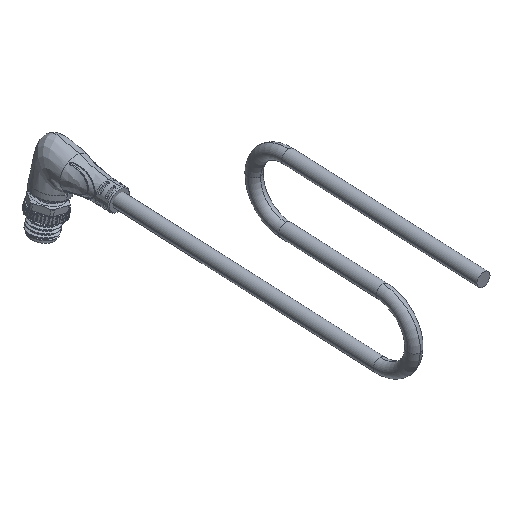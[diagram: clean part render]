
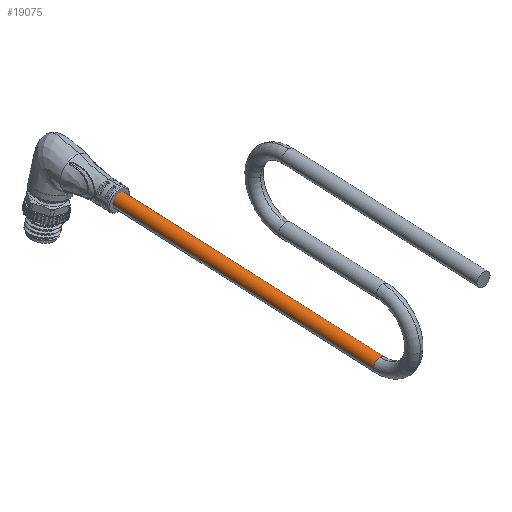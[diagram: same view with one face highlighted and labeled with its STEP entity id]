
A CAD part, isometric view. The second image highlights one B-rep face of the part: STEP entity #19075.
In plain terms, the highlighted cylindrical face has radius 2 mm (diameter 4 mm), a partial arc.
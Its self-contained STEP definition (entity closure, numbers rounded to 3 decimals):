
#16 = EDGE_CURVE ( 'NONE', #9887, #21935, #32134, .T. ) ;
#1195 = DIRECTION ( 'NONE',  ( -1., 0., 0. ) ) ;
#3101 = ORIENTED_EDGE ( 'NONE', *, *, #4665, .T. ) ;
#3181 = CARTESIAN_POINT ( 'NONE',  ( 2., 40., -90. ) ) ;
#3295 = VECTOR ( 'NONE', #9621, 1000. ) ;
#3334 = DIRECTION ( 'NONE',  ( 0., 0., -1. ) ) ;
#4041 = CARTESIAN_POINT ( 'NONE',  ( -2., 40., 0. ) ) ;
#4665 = EDGE_CURVE ( 'NONE', #30322, #27955, #25814, .T. ) ;
#5863 = ORIENTED_EDGE ( 'NONE', *, *, #24318, .T. ) ;
#7496 = DIRECTION ( 'NONE',  ( -1., 0., 0. ) ) ;
#8595 = VERTEX_POINT ( 'NONE', #4041 ) ;
#9025 = CARTESIAN_POINT ( 'NONE',  ( 0., 38., 0. ) ) ;
#9621 = DIRECTION ( 'NONE',  ( 0., 0., -1. ) ) ;
#9887 = VERTEX_POINT ( 'NONE', #3181 ) ;
#10677 = CARTESIAN_POINT ( 'NONE',  ( 0., 40., 0. ) ) ;
#10800 = AXIS2_PLACEMENT_3D ( 'NONE', #31404, #26585, #23716 ) ;
#10889 = DIRECTION ( 'NONE',  ( 0., 0., -1. ) ) ;
#11147 = DIRECTION ( 'NONE',  ( -1., 0., 0. ) ) ;
#12473 = CARTESIAN_POINT ( 'NONE',  ( -2., 40., -90. ) ) ;
#12620 = LINE ( 'NONE', #20283, #3295 ) ;
#13034 = CARTESIAN_POINT ( 'NONE',  ( -2., 40., 0. ) ) ;
#16235 = CARTESIAN_POINT ( 'NONE',  ( 0., 40., 0. ) ) ;
#16764 = ORIENTED_EDGE ( 'NONE', *, *, #16, .F. ) ;
#17545 = EDGE_CURVE ( 'NONE', #27955, #8595, #29262, .T. ) ;
#17622 = VECTOR ( 'NONE', #3334, 1000. ) ;
#18670 = FACE_OUTER_BOUND ( 'NONE', #18797, .T. ) ;
#18797 = EDGE_LOOP ( 'NONE', ( #27971, #3101, #24787, #5863, #16764 ) ) ;
#18831 = CYLINDRICAL_SURFACE ( 'NONE', #33003, 2. ) ;
#18885 = AXIS2_PLACEMENT_3D ( 'NONE', #10677, #20192, #7496 ) ;
#19075 = ADVANCED_FACE ( 'NONE', ( #18670 ), #18831, .T. ) ;
#20192 = DIRECTION ( 'NONE',  ( 0., 0., -1. ) ) ;
#20283 = CARTESIAN_POINT ( 'NONE',  ( 2., 40., 0. ) ) ;
#20989 = DIRECTION ( 'NONE',  ( 0., 0., -1. ) ) ;
#21935 = VERTEX_POINT ( 'NONE', #12473 ) ;
#23716 = DIRECTION ( 'NONE',  ( -1., 0., 0. ) ) ;
#24318 = EDGE_CURVE ( 'NONE', #8595, #21935, #26071, .T. ) ;
#24787 = ORIENTED_EDGE ( 'NONE', *, *, #17545, .T. ) ;
#24980 = AXIS2_PLACEMENT_3D ( 'NONE', #16235, #10889, #1195 ) ;
#25814 = CIRCLE ( 'NONE', #18885, 2. ) ;
#26071 = LINE ( 'NONE', #13034, #17622 ) ;
#26480 = EDGE_CURVE ( 'NONE', #30322, #9887, #12620, .T. ) ;
#26585 = DIRECTION ( 'NONE',  ( 0., 0., -1. ) ) ;
#27955 = VERTEX_POINT ( 'NONE', #9025 ) ;
#27971 = ORIENTED_EDGE ( 'NONE', *, *, #26480, .F. ) ;
#28739 = CARTESIAN_POINT ( 'NONE',  ( 2., 40., 0. ) ) ;
#29262 = CIRCLE ( 'NONE', #24980, 2. ) ;
#30322 = VERTEX_POINT ( 'NONE', #28739 ) ;
#31003 = CARTESIAN_POINT ( 'NONE',  ( 0., 40., 0. ) ) ;
#31404 = CARTESIAN_POINT ( 'NONE',  ( 0., 40., -90. ) ) ;
#32134 = CIRCLE ( 'NONE', #10800, 2. ) ;
#33003 = AXIS2_PLACEMENT_3D ( 'NONE', #31003, #20989, #11147 ) ;
